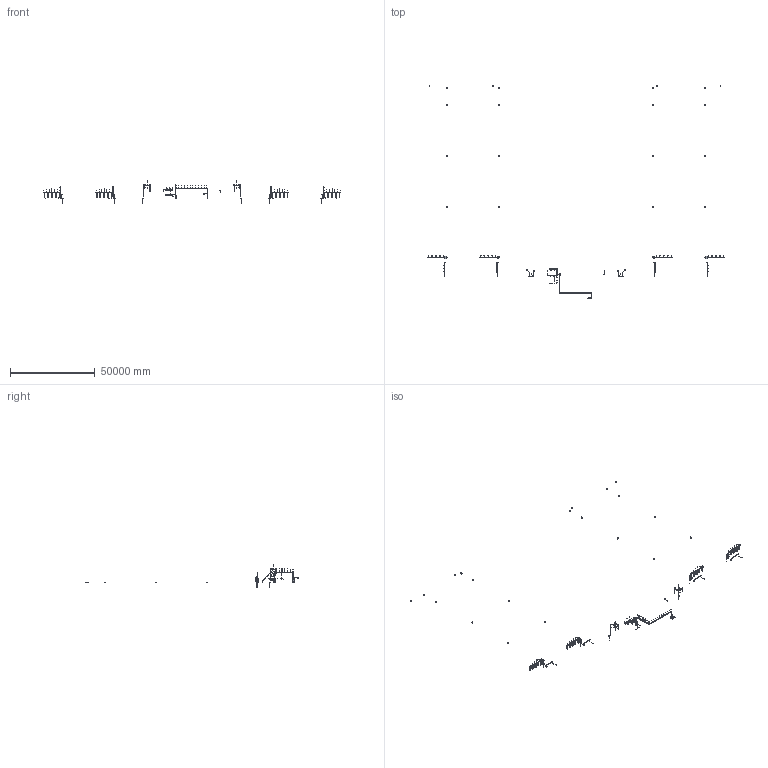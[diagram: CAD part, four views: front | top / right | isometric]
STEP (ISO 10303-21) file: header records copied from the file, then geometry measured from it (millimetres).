
FILE_DESCRIPTION(('Open CASCADE Model'),'2;1');
FILE_NAME('Open CASCADE Shape Model','2026-11-20T01:15:28',('Author'),( 'Open CASCADE'),'Open CASCADE STEP processor 7.9','Open CASCADE 7.9' ,'Unknown');
FILE_SCHEMA(('AUTOMOTIVE_DESIGN { 1 0 10303 214 1 1 1 1 }'));
Length unit declared in the file: millimetre
Products named in the file (229): Granja_integrada_Instalacion_electrica; InstalaciÃ³n_elÃ©ctrica_-_tableros_y_PLC; TS-GU_1; TS-GU_2; TS-GU_3; TS-GU_4; TS-GU_5; TS-GU_7; TS-GU_8; TS-GU_9; TS-GU_10; RIO-TP_1; RIO-TP_2; RIO-TP_3; RIO-TP_4; RIO-TP_9; RIO-TP_10; RIO-TP_11; RIO-TP_12; Anclaje_quÃ­mico_1; RIO-TP_13; CCM-G1_1; CCM-G1_2; CCM-G1_3; CCM-G1_4; CCM-G1_9; CCM-G1_10; CCM-G1_11; CCM-G1_12; InstalaciÃ³n_elÃ©ctrica_-_canalizaciones; BT-SC_1; BT-SC_3; BT-SC_4; BT-SC_5; BT-SC_6; BT-SC_8; BT-SC_15; BT-SC_16; BT-SC_17; BT-SC_19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
Assembly tree (1994 placements, depth 3):
  Granja_integrada_Instalacion_electrica
    InstalaciÃ³n_elÃ©ctrica_-_tableros_y_PLC
      TS-GU_1
      TS-GU_2
      TS-GU_3
      TS-GU_4
      TS-GU_5  x12
      TS-GU_7  x6
      TS-GU_8  x6
      TS-GU_9
      TS-GU_10
      RIO-TP_1
      RIO-TP_2
      RIO-TP_3
      RIO-TP_4
      RIO-TP_9
      RIO-TP_10
      RIO-TP_11
      RIO-TP_12
      Anclaje_quÃ­mico_1  x4
      RIO-TP_13  x4
      CCM-G1_1  x4
      CCM-G1_2  x4
      CCM-G1_3  x4
      CCM-G1_4  x4
      CCM-G1_9  x4
      CCM-G1_10  x4
      CCM-G1_11  x4
      CCM-G1_12  x8
    InstalaciÃ³n_elÃ©ctrica_-_canalizaciones
      BT-SC_1  x2
      BT-SC_3  x275
      BT-SC_4  x2
      BT-SC_5
      BT-SC_6
      BT-SC_8  x2
      BT-SC_15  x2
      BT-SC_16
      BT-SC_17
      BT-SC_19  x8
      BT-SC_21  x70
      BT-SC_25  x2
      BT-SC_35  x2
      BT-SC_36
      BT-SC_37
      BT-SC_45  x2
      BT-SC_48  x2
      BT-SC_49
      BT-SC_50
      BT-01_1  x2
      BT-01_3  x105
      BT-01_13  x2
      BT-01_14  x2
      BT-01_15  x2
      BT-01_19  x2
      BT-01_82  x2
      BT-01_83  x2
      BT-01_84  x2
      BT-01_88  x24
      BT-01_124  x2
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Bounding box: 175400 x 125630 x 13250 mm (x, y, z)
Volume: 9994651900.9 mm3; surface area: 324634813.1 mm2
Topology: 2024 solids, 2024 shells, 9949 faces, 19245 edges, 12830 vertices
Faces by surface type: plane 8790, cylinder 900, sphere 257, cone 2
Full cylindrical faces by diameter (mm): 8 x4, 10 x4, 12 x144, 16 x160, 18 x100, 20 x160, 24 x70, 25 x110, 25.2 x4, 28 x48, 30 x50, 32 x16, 50 x10, 60 x10, 92 x10
Entity records: 41324 total; most frequent: DIRECTION 7747, CARTESIAN_POINT 5517, AXIS2_PLACEMENT_3D 3259, ORIENTED_EDGE 3066, PRODUCT_DEFINITION_SHAPE 2223, CONTEXT_DEPENDENT_SHAPE_REPRESENTATION 1994, ITEM_DEFINED_TRANSFORMATION 1994, NEXT_ASSEMBLY_USAGE_OCCURRENCE 1994
